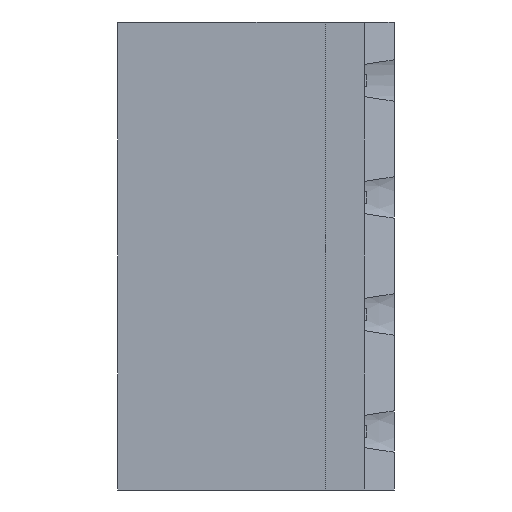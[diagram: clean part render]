
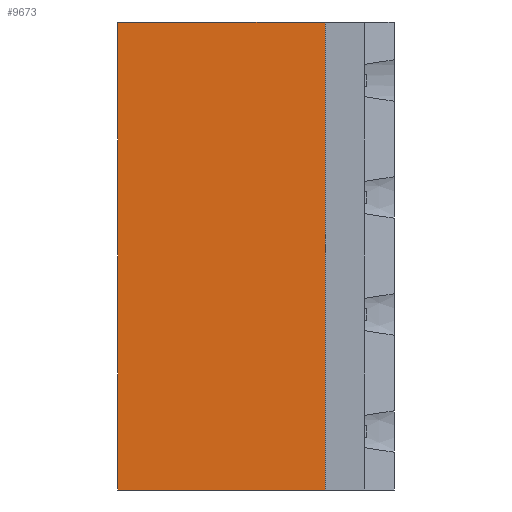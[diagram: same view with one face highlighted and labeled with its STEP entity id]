
A CAD part, left-side view. The second image highlights one B-rep face of the part: STEP entity #9673.
In plain terms, the highlighted planar face has unit normal (-1, 0, 0).
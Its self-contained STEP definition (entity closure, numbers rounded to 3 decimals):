
#1167 = ORIENTED_EDGE ( 'NONE', *, *, #1730, .T. ) ;
#1355 = ORIENTED_EDGE ( 'NONE', *, *, #7979, .F. ) ;
#1614 = EDGE_LOOP ( 'NONE', ( #1167, #1355, #4272, #10332 ) ) ;
#1667 = DIRECTION ( 'NONE',  ( 0., 0., 1. ) ) ;
#1730 = EDGE_CURVE ( 'NONE', #8519, #8283, #7181, .T. ) ;
#1854 = VECTOR ( 'NONE', #8909, 1000. ) ;
#2166 = CARTESIAN_POINT ( 'NONE',  ( -3.9, 3., 20.32 ) ) ;
#2299 = CARTESIAN_POINT ( 'NONE',  ( -3.9, 12., 0. ) ) ;
#2350 = VECTOR ( 'NONE', #10192, 1000. ) ;
#2364 = PLANE ( 'NONE',  #9672 ) ;
#2452 = CARTESIAN_POINT ( 'NONE',  ( -3.9, 12., 0. ) ) ;
#3589 = EDGE_CURVE ( 'NONE', #8519, #9369, #4069, .T. ) ;
#3719 = CARTESIAN_POINT ( 'NONE',  ( -3.9, 3., 20.32 ) ) ;
#4069 = LINE ( 'NONE', #2299, #7935 ) ;
#4174 = FACE_OUTER_BOUND ( 'NONE', #1614, .T. ) ;
#4272 = ORIENTED_EDGE ( 'NONE', *, *, #6190, .F. ) ;
#4382 = CARTESIAN_POINT ( 'NONE',  ( -3.9, 3., 0. ) ) ;
#4791 = CARTESIAN_POINT ( 'NONE',  ( -3.9, 12., 0. ) ) ;
#5473 = LINE ( 'NONE', #3719, #2350 ) ;
#5501 = DIRECTION ( 'NONE',  ( 0., 0., 1. ) ) ;
#6190 = EDGE_CURVE ( 'NONE', #9369, #9185, #7100, .T. ) ;
#7100 = LINE ( 'NONE', #10224, #8261 ) ;
#7181 = LINE ( 'NONE', #4791, #1854 ) ;
#7278 = CARTESIAN_POINT ( 'NONE',  ( -3.9, 12., 20.32 ) ) ;
#7935 = VECTOR ( 'NONE', #5501, 1000. ) ;
#7979 = EDGE_CURVE ( 'NONE', #9185, #8283, #5473, .T. ) ;
#8261 = VECTOR ( 'NONE', #8631, 1000. ) ;
#8283 = VERTEX_POINT ( 'NONE', #4382 ) ;
#8519 = VERTEX_POINT ( 'NONE', #2452 ) ;
#8631 = DIRECTION ( 'NONE',  ( 0., -1., 0. ) ) ;
#8909 = DIRECTION ( 'NONE',  ( 0., -1., 0. ) ) ;
#9185 = VERTEX_POINT ( 'NONE', #2166 ) ;
#9369 = VERTEX_POINT ( 'NONE', #7278 ) ;
#9672 = AXIS2_PLACEMENT_3D ( 'NONE', #10484, #9747, #1667 ) ;
#9673 = ADVANCED_FACE ( 'NONE', ( #4174 ), #2364, .T. ) ;
#9747 = DIRECTION ( 'NONE',  ( -1., 0., 0. ) ) ;
#10192 = DIRECTION ( 'NONE',  ( 0., 0., -1. ) ) ;
#10224 = CARTESIAN_POINT ( 'NONE',  ( -3.9, 12., 20.32 ) ) ;
#10332 = ORIENTED_EDGE ( 'NONE', *, *, #3589, .F. ) ;
#10484 = CARTESIAN_POINT ( 'NONE',  ( -3.9, 12., 0. ) ) ;
